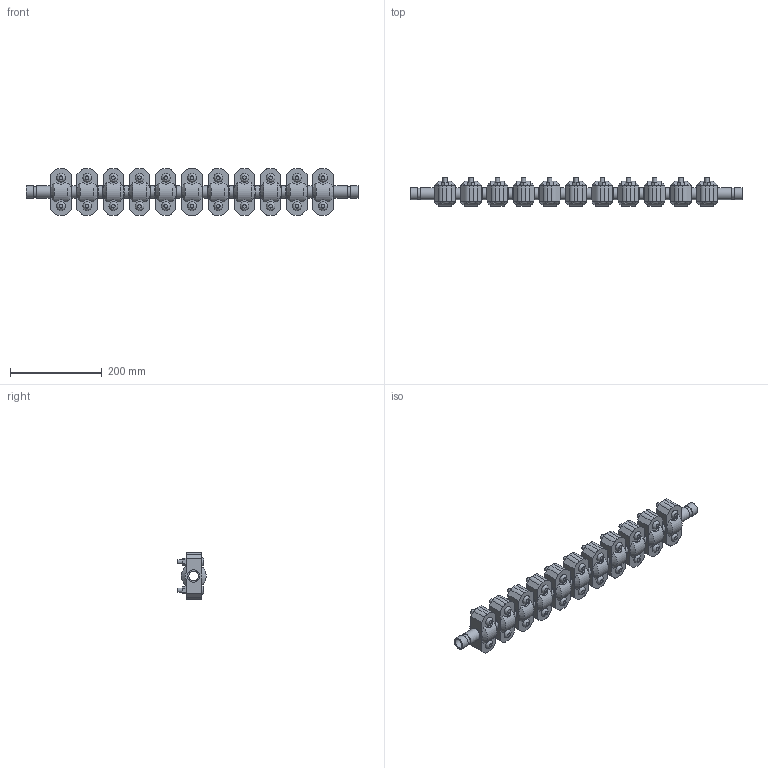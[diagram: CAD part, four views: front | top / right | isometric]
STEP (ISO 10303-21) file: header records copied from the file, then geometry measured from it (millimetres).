
FILE_DESCRIPTION(/* description */ ('VIC EXPANSION JOINT 11 COUPLINGS COMPRESSED STYLE 155 (OGS)','CAx-IF Rec.Pracs.---Representation and Presentation of Product Manufacturing Information (PMI)---4.0---2014-10-13'),/* implementation_level */ '2;1');
FILE_NAME(/* name */ 'C:\Users\kkamble\AppData\Roaming\Autodesk\ApplicationPlugins\Victaulic.Temp\A956\Victaulic_IPS_Expansion Joint_Compressed_11 Couplings_Style 155 (OGS)_0.75 (20).stp',/* time_stamp */ '2021-06-27T00:18:22+02:00',/* author */ ('kkamble'),/* organization */ ('Victaulic'),/* preprocessor_version */ 'ST-DEVELOPER v17.2',/* originating_system */ 'Autodesk Inventor 2019',/* authorisation */ '');
FILE_SCHEMA (('AP242_MANAGED_MODEL_BASED_3D_ENGINEERING_MIM_LF { 1 0 10303 442 1 1 4 }'));
Length unit declared in the file: inch
Products named in the file (4): 155-0.75; Nipple-0.75; Nipple-0.75_1; 077-0.75
Assembly tree (23 placements, depth 2):
  155-0.75
    Nipple-0.75  x2
    Nipple-0.75_1  x10
    077-0.75  x11
Bounding box: 723.9 x 61.1 x 101.6 mm (x, y, z)
Volume: 1682903.4 mm3; surface area: 415569.2 mm2
Topology: 23 solids, 45 shells, 771 faces, 1889 edges, 1322 vertices
Faces by surface type: plane 446, cylinder 259, cone 44, bspline 22
Full cylindrical faces by diameter (mm): 9.525 x44, 11.43 x22, 20.93 x12, 23.825 x24, 26.67 x47
Entity records: 3003 total; most frequent: CARTESIAN_POINT 585, DIRECTION 491, ORIENTED_EDGE 398, EDGE_CURVE 199, AXIS2_PLACEMENT_3D 198, VERTEX_POINT 142, EDGE_LOOP 105, LINE 95
